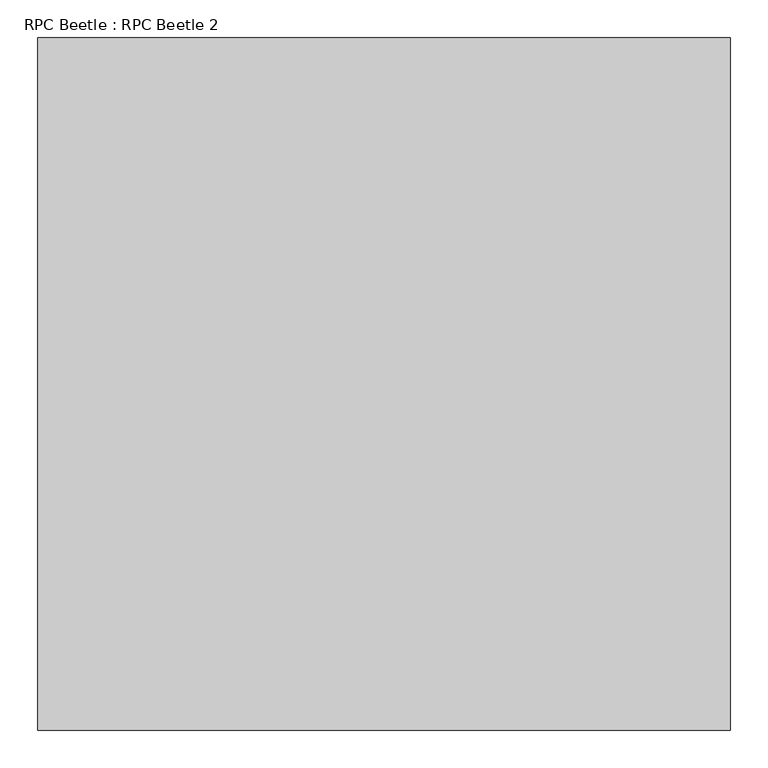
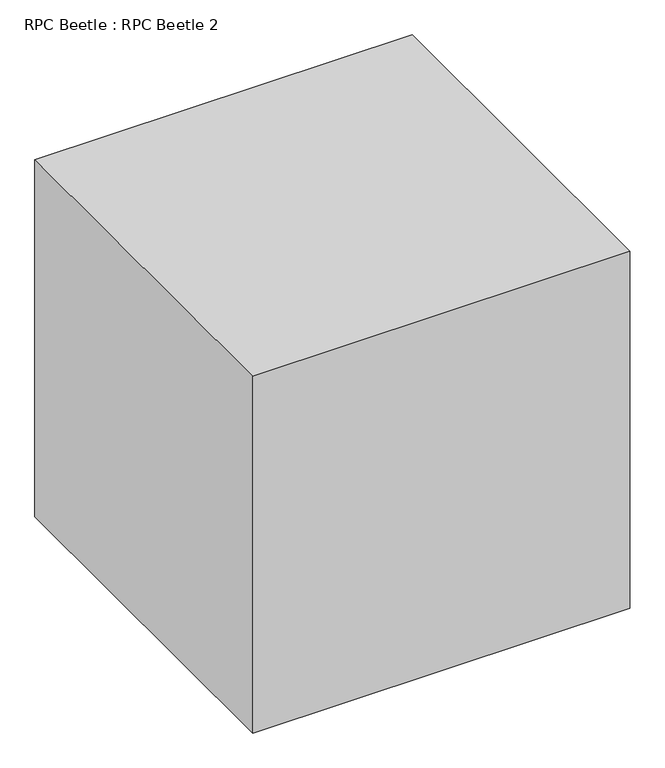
"""IFC4 building model written with IfcOpenShell, lengths in millimetres: proxy geometry, RPC Beetle : RPC Beetle 2."""

from ifc_helpers import new_model, si_unit, origin, origin_with_axes, place, context, project, spatial, polyline, outline, extrude, source, transform, mapped, element, save


def rpc_beetle_rpc_beetle_2_5a6a0a95(model_context):
    return source(origin(), model_context, "Body", "SweptSolid", [
        extrude(outline(polyline([(-457.2, -457.2), (-457.2, 457.2), (457.2, 457.2), (457.2, -457.2), (-457.2, -457.2)])), origin_with_axes(), (0.0, 0.0, 1.0), 914.4),
    ])


if __name__ == "__main__":
    model = new_model("IFC4")
    model_context = context("Model", 3, world=origin())
    ifc_project = project(units=[si_unit("LENGTHUNIT", "METRE", prefix="MILLI")], contexts=[model_context])
    site = spatial("IfcSite", under=ifc_project)
    building = spatial("IfcBuilding", under=site)
    placement = place(None, origin())
    rpc_beetle_rpc_beetle_2_shape = rpc_beetle_rpc_beetle_2_5a6a0a95(model_context)
    element("IfcBuildingElementProxy", 1, Name="RPC Beetle : RPC Beetle 2", ObjectType="RPC Beetle : RPC Beetle 2", at=placement, inside=building, context=model_context, shape_type="MappedRepresentation", body=[
        mapped(rpc_beetle_rpc_beetle_2_shape, transform((0.0, 0.0, 0.0), x_axis=(1.0, 0.0, 0.0), y_axis=(0.0, 1.0, 0.0), z_axis=(0.0, 0.0, 1.0))),
    ])
    save(model, "model.ifc")
